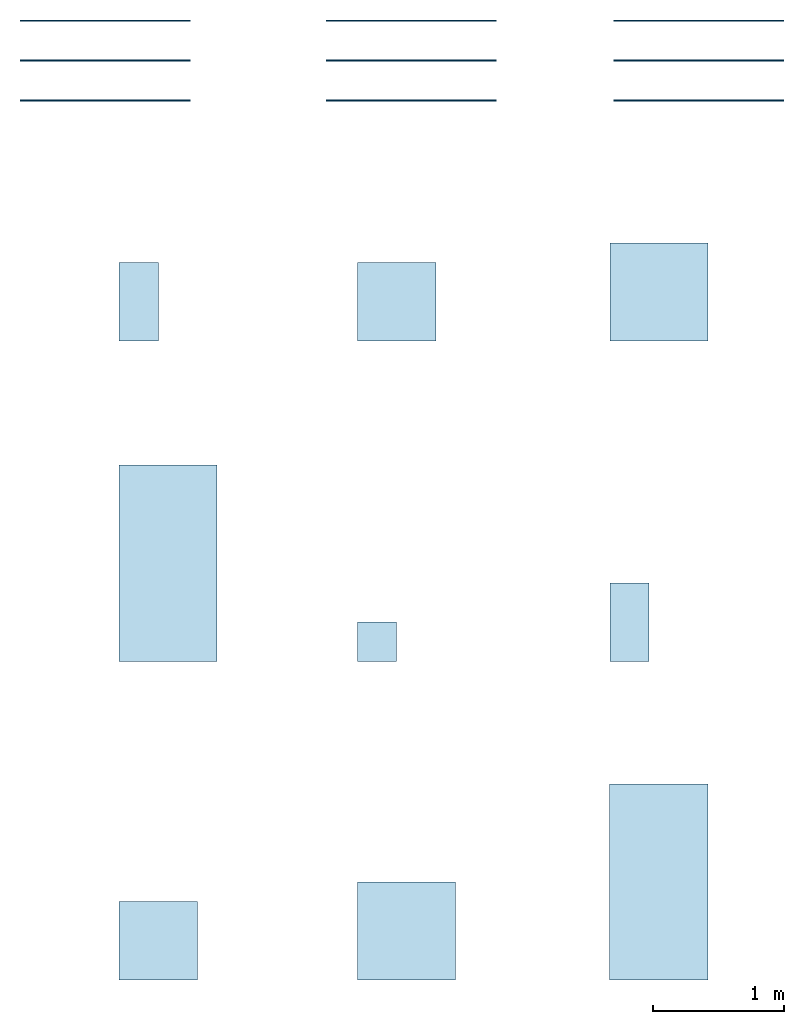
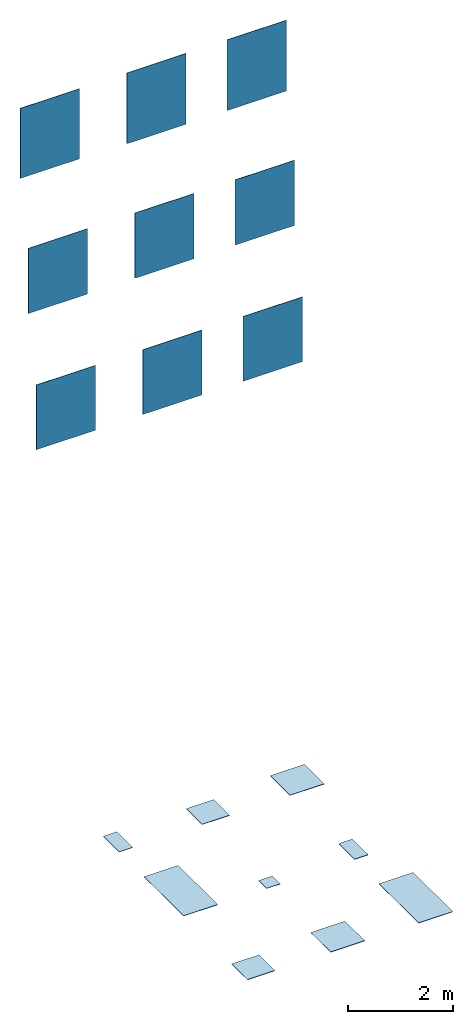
# One storey: 9 slabs, 9 walls.
"""IFC2X3 building model written with IfcOpenShell, lengths in millimetres."""

from ifc_helpers import new_model, entity, si_unit, converted_unit, derived_unit, direction, frame, frame_2d, origin, origin_2d_with_axis, place, context, subcontext, project, spatial, rectangle, extrude, material, layer, layer_set, layer_usage, type_object, element, save


model = new_model("IFC2X3")

# Units and contexts
model_context = context("Model", 3, precision=0.01, world=origin(), true_north=direction((6.12303176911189e-17, 1.0)))
body_context = subcontext(model_context, "Body", "Model", "MODEL_VIEW")
ifc_project = project(units=[si_unit("LENGTHUNIT", "METRE", prefix="MILLI"), si_unit("AREAUNIT", "SQUARE_METRE"), si_unit("VOLUMEUNIT", "CUBIC_METRE"), converted_unit("PLANEANGLEUNIT", "DEGREE", entity("IfcRatioMeasure", 0.0174532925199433), si_unit("PLANEANGLEUNIT", "RADIAN"), dimensions=[0, 0, 0, 0, 0, 0, 0]), si_unit("MASSUNIT", "GRAM", prefix="KILO"), derived_unit("MASSDENSITYUNIT", [(si_unit("MASSUNIT", "GRAM", prefix="KILO"), 1), (si_unit("LENGTHUNIT", "METRE"), -3)]), derived_unit("MOMENTOFINERTIAUNIT", [(si_unit("LENGTHUNIT", "METRE"), 4)]), si_unit("TIMEUNIT", "SECOND"), si_unit("FREQUENCYUNIT", "HERTZ"), si_unit("THERMODYNAMICTEMPERATUREUNIT", "DEGREE_CELSIUS"), derived_unit("THERMALTRANSMITTANCEUNIT", [(si_unit("MASSUNIT", "GRAM", prefix="KILO"), 1), (si_unit("THERMODYNAMICTEMPERATUREUNIT", "KELVIN"), -1), (si_unit("TIMEUNIT", "SECOND"), -3)]), derived_unit("VOLUMETRICFLOWRATEUNIT", [(si_unit("LENGTHUNIT", "METRE"), 3), (si_unit("TIMEUNIT", "SECOND"), -1)]), si_unit("ELECTRICCURRENTUNIT", "AMPERE"), si_unit("ELECTRICVOLTAGEUNIT", "VOLT"), si_unit("POWERUNIT", "WATT"), si_unit("FORCEUNIT", "NEWTON", prefix="KILO"), si_unit("ILLUMINANCEUNIT", "LUX"), si_unit("LUMINOUSFLUXUNIT", "LUMEN"), si_unit("LUMINOUSINTENSITYUNIT", "CANDELA"), derived_unit("USERDEFINED", [(si_unit("MASSUNIT", "GRAM", prefix="KILO"), -1), (si_unit("LENGTHUNIT", "METRE"), -2), (si_unit("TIMEUNIT", "SECOND"), 3), (si_unit("LUMINOUSFLUXUNIT", "LUMEN"), 1)]), derived_unit("LINEARVELOCITYUNIT", [(si_unit("LENGTHUNIT", "METRE"), 1), (si_unit("TIMEUNIT", "SECOND"), -1)]), si_unit("PRESSUREUNIT", "PASCAL"), derived_unit("USERDEFINED", [(si_unit("LENGTHUNIT", "METRE"), -2), (si_unit("MASSUNIT", "GRAM", prefix="KILO"), 1), (si_unit("TIMEUNIT", "SECOND"), -2)]), derived_unit("LINEARFORCEUNIT", [(si_unit("MASSUNIT", "GRAM", prefix="KILO"), 1), (si_unit("LENGTHUNIT", "METRE"), 1), (si_unit("TIMEUNIT", "SECOND"), -2), (si_unit("LENGTHUNIT", "METRE"), -1)]), derived_unit("PLANARFORCEUNIT", [(si_unit("MASSUNIT", "GRAM", prefix="KILO"), 1), (si_unit("LENGTHUNIT", "METRE"), 1), (si_unit("TIMEUNIT", "SECOND"), -2), (si_unit("LENGTHUNIT", "METRE"), -2)])], contexts=[model_context])

# Site, building, storey
site_placement = place(None, origin())
site = spatial("IfcSite", under=ifc_project, at=site_placement, Name="Default", CompositionType="ELEMENT")
building_placement = place(site_placement, origin())
building = spatial("IfcBuilding", under=site, at=building_placement, CompositionType="ELEMENT")
storey_placement = place(building_placement, origin())
storey = spatial("IfcBuildingStorey", under=building, at=storey_placement, Name="Level 0", CompositionType="ELEMENT", Elevation=0.0)

# Slabs
ifc_material_1 = material(Name="Prestigio Onyx-Grey-75x75 NZ82")
ifc_layer_1 = layer(ifc_material_1, 9.0)
ifc_material_2 = material(Name="<Unnamed>")
ifc_layer_2 = layer(ifc_material_2, 1.0)
ifc_layer_set_1 = layer_set([ifc_layer_1, ifc_layer_2], Name="Floor:Floor_Tiles_Refin-Prestigio_Onyx-Grey-75x75 NZ82")
ifc_layer_usage_1 = layer_usage(ifc_layer_set_1, "AXIS3", "POSITIVE", 0.0)
slab_type_1 = type_object("IfcSlabType", Name="Floor:Floor_Tiles_Refin-Prestigio_Onyx-Grey-75x75 NZ82", PredefinedType="FLOOR", material=ifc_layer_set_1)
slab_1_placement = place(storey_placement, origin())
element("IfcSlab", 1, at=slab_1_placement, inside=storey, type_object=slab_type_1, material=ifc_layer_usage_1, Name="Floor:Floor_Tiles_Refin-Prestigio_Onyx-Grey-75x75 NZ82", ObjectType="Floor:Floor_Tiles_Refin-Prestigio_Onyx-Grey-75x75 NZ82", PredefinedType="FLOOR", context=body_context, shape_type="SweptSolid", body=[
    extrude(rectangle(XDim=750.000000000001, YDim=750.000000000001, at=frame_2d((0.0, 1.08002495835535e-12), x_axis=(1.0, 0.0))), frame((10802.1861418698, 6064.46237428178, 0.0), z_axis=(0.0, 0.0, -1.0), x_axis=(0.0, 1.0, 0.0)), (0.0, 0.0, 1.0), 10.0),
])
ifc_material_3 = material(Name="Prestigio Onyx-Grey-30x60 NW02")
ifc_layer_3 = layer(ifc_material_3, 9.0)
ifc_layer_4 = layer(ifc_material_2, 1.0)
ifc_layer_set_2 = layer_set([ifc_layer_3, ifc_layer_4], Name="Floor:Floor_Tiles_Refin-Prestigio_Onyx-Grey-30x60 NW02")
ifc_layer_usage_2 = layer_usage(ifc_layer_set_2, "AXIS3", "POSITIVE", 0.0)
slab_type_2 = type_object("IfcSlabType", Name="Floor:Floor_Tiles_Refin-Prestigio_Onyx-Grey-30x60 NW02", PredefinedType="FLOOR", material=ifc_layer_set_2)
slab_2_placement = place(storey_placement, origin())
element("IfcSlab", 2, at=slab_2_placement, inside=storey, type_object=slab_type_2, material=ifc_layer_usage_2, Name="Floor:Floor_Tiles_Refin-Prestigio_Onyx-Grey-30x60 NW02", ObjectType="Floor:Floor_Tiles_Refin-Prestigio_Onyx-Grey-30x60 NW02", PredefinedType="FLOOR", context=body_context, shape_type="SweptSolid", body=[
    extrude(rectangle(XDim=600.0, YDim=300.0, at=frame_2d((0.0, -5.40012479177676e-13), x_axis=(1.0, 0.0))), frame((6824.37520617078, 5989.4623742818, 0.0), z_axis=(0.0, 0.0, -1.0), x_axis=(0.0, 1.0, 0.0)), (0.0, 0.0, 1.0), 10.0),
])
ifc_material_4 = material(Name="Prestigio Onyx-Grey-Soft-30x60 NW05")
ifc_layer_5 = layer(ifc_material_4, 9.0)
ifc_layer_6 = layer(ifc_material_2, 1.0)
ifc_layer_set_3 = layer_set([ifc_layer_5, ifc_layer_6], Name="Floor:Floor_Tiles_Refin-Prestigio_Onyx-Grey_Soft-30x60 NW05")
ifc_layer_usage_3 = layer_usage(ifc_layer_set_3, "AXIS3", "POSITIVE", 0.0)
slab_type_3 = type_object("IfcSlabType", Name="Floor:Floor_Tiles_Refin-Prestigio_Onyx-Grey_Soft-30x60 NW05", PredefinedType="FLOOR", material=ifc_layer_set_3)
slab_3_placement = place(storey_placement, origin())
element("IfcSlab", 3, at=slab_3_placement, inside=storey, type_object=slab_type_3, material=ifc_layer_usage_3, Name="Floor:Floor_Tiles_Refin-Prestigio_Onyx-Grey_Soft-30x60 NW05", ObjectType="Floor:Floor_Tiles_Refin-Prestigio_Onyx-Grey_Soft-30x60 NW05", PredefinedType="FLOOR", context=body_context, shape_type="SweptSolid", body=[
    extrude(rectangle(XDim=600.0, YDim=300.000000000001, at=origin_2d_with_axis()), frame((10577.1861418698, 3539.46237428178, 0.0), z_axis=(0.0, 0.0, -1.0), x_axis=(0.0, 1.0, 0.0)), (0.0, 0.0, 1.0), 10.0),
])
ifc_material_5 = material(Name="Prestigio Onyx-Grey-30x30 NZ92")
ifc_layer_7 = layer(ifc_material_5, 9.0)
ifc_layer_8 = layer(ifc_material_2, 1.0)
ifc_layer_set_4 = layer_set([ifc_layer_7, ifc_layer_8], Name="Floor:Floor_Tiles_Refin-Prestigio_Onyx-Grey-30x30 NZ92")
ifc_layer_usage_4 = layer_usage(ifc_layer_set_4, "AXIS3", "POSITIVE", 0.0)
slab_type_4 = type_object("IfcSlabType", Name="Floor:Floor_Tiles_Refin-Prestigio_Onyx-Grey-30x30 NZ92", PredefinedType="FLOOR", material=ifc_layer_set_4)
slab_4_placement = place(storey_placement, origin())
element("IfcSlab", 4, at=slab_4_placement, inside=storey, type_object=slab_type_4, material=ifc_layer_usage_4, Name="Floor:Floor_Tiles_Refin-Prestigio_Onyx-Grey-30x30 NZ92", ObjectType="Floor:Floor_Tiles_Refin-Prestigio_Onyx-Grey-30x30 NZ92", PredefinedType="FLOOR", context=body_context, shape_type="SweptSolid", body=[
    extrude(rectangle(XDim=300.0, YDim=300.0, at=frame_2d((5.40012479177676e-13, -5.40012479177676e-13), x_axis=(1.0, 0.0))), frame((8647.39240545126, 3389.4623742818, 0.0), z_axis=(0.0, 0.0, -1.0), x_axis=(0.0, 1.0, 0.0)), (0.0, 0.0, 1.0), 10.0),
])
ifc_material_6 = material(Name="Prestigio Onyx-Grey-75x150 NV70")
ifc_layer_9 = layer(ifc_material_6, 9.0)
ifc_layer_10 = layer(ifc_material_2, 1.0)
ifc_layer_set_5 = layer_set([ifc_layer_9, ifc_layer_10], Name="Floor:Floor_Tiles_Refin-Prestigio_Onyx-Grey-75x150 NV70")
ifc_layer_usage_5 = layer_usage(ifc_layer_set_5, "AXIS3", "POSITIVE", 0.0)
slab_type_5 = type_object("IfcSlabType", Name="Floor:Floor_Tiles_Refin-Prestigio_Onyx-Grey-75x150 NV70", PredefinedType="FLOOR", material=ifc_layer_set_5)
slab_5_placement = place(storey_placement, origin())
element("IfcSlab", 5, at=slab_5_placement, inside=storey, type_object=slab_type_5, material=ifc_layer_usage_5, Name="Floor:Floor_Tiles_Refin-Prestigio_Onyx-Grey-75x150 NV70", ObjectType="Floor:Floor_Tiles_Refin-Prestigio_Onyx-Grey-75x150 NV70", PredefinedType="FLOOR", context=body_context, shape_type="SweptSolid", body=[
    extrude(rectangle(XDim=1500.0, YDim=750.000000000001, at=frame_2d((0.0, 1.08002495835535e-12), x_axis=(1.0, 0.0))), frame((7049.37520617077, 3989.4623742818, 0.0), z_axis=(0.0, 0.0, -1.0), x_axis=(0.0, 1.0, 0.0)), (0.0, 0.0, 1.0), 10.0),
])
ifc_material_7 = material(Name="Prestigio Onyx-Grey-Soft-60x60 NZ99")
ifc_layer_11 = layer(ifc_material_7, 9.0)
ifc_layer_12 = layer(ifc_material_2, 1.0)
ifc_layer_set_6 = layer_set([ifc_layer_11, ifc_layer_12], Name="Floor:Floor_Tiles_Refin-Prestigio_Onyx-Grey_Soft-60x60 NZ99")
ifc_layer_usage_6 = layer_usage(ifc_layer_set_6, "AXIS3", "POSITIVE", 0.0)
slab_type_6 = type_object("IfcSlabType", Name="Floor:Floor_Tiles_Refin-Prestigio_Onyx-Grey_Soft-60x60 NZ99", PredefinedType="FLOOR", material=ifc_layer_set_6)
slab_6_placement = place(storey_placement, origin())
element("IfcSlab", 6, at=slab_6_placement, inside=storey, type_object=slab_type_6, material=ifc_layer_usage_6, Name="Floor:Floor_Tiles_Refin-Prestigio_Onyx-Grey_Soft-60x60 NZ99", ObjectType="Floor:Floor_Tiles_Refin-Prestigio_Onyx-Grey_Soft-60x60 NZ99", PredefinedType="FLOOR", context=body_context, shape_type="SweptSolid", body=[
    extrude(rectangle(XDim=600.0, YDim=600.0, at=frame_2d((0.0, 1.08002495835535e-12), x_axis=(1.0, 0.0))), frame((6972.60093306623, 1103.43672349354, 0.0), z_axis=(0.0, 0.0, -1.0), x_axis=(0.0, 1.0, 0.0)), (0.0, 0.0, 1.0), 10.0),
])
ifc_material_8 = material(Name="Prestigio Onyx-Grey-60x60 NZ96")
ifc_layer_13 = layer(ifc_material_8, 9.0)
ifc_layer_14 = layer(ifc_material_2, 1.0)
ifc_layer_set_7 = layer_set([ifc_layer_13, ifc_layer_14], Name="Floor:Floor_Tiles_Refin-Prestigio_Onyx-Grey-60x60 NZ96")
ifc_layer_usage_7 = layer_usage(ifc_layer_set_7, "AXIS3", "POSITIVE", 0.0)
slab_type_7 = type_object("IfcSlabType", Name="Floor:Floor_Tiles_Refin-Prestigio_Onyx-Grey-60x60 NZ96", PredefinedType="FLOOR", material=ifc_layer_set_7)
slab_7_placement = place(storey_placement, origin())
element("IfcSlab", 7, at=slab_7_placement, inside=storey, type_object=slab_type_7, material=ifc_layer_usage_7, Name="Floor:Floor_Tiles_Refin-Prestigio_Onyx-Grey-60x60 NZ96", ObjectType="Floor:Floor_Tiles_Refin-Prestigio_Onyx-Grey-60x60 NZ96", PredefinedType="FLOOR", context=body_context, shape_type="SweptSolid", body=[
    extrude(rectangle(XDim=600.0, YDim=600.0, at=origin_2d_with_axis()), frame((8797.39240545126, 5988.41920639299, 0.0), z_axis=(0.0, 0.0, -1.0), x_axis=(0.0, 1.0, 0.0)), (0.0, 0.0, 1.0), 10.0),
])
ifc_material_9 = material(Name="Prestigio Onyx-Grey-Soft-75x75 NZ85")
ifc_layer_15 = layer(ifc_material_9, 9.0)
ifc_layer_16 = layer(ifc_material_2, 1.0)
ifc_layer_set_8 = layer_set([ifc_layer_15, ifc_layer_16], Name="Floor:Floor_Tiles_Refin-Prestigio_Onyx-Grey_Soft-75x75 NZ85")
ifc_layer_usage_8 = layer_usage(ifc_layer_set_8, "AXIS3", "POSITIVE", 0.0)
slab_type_8 = type_object("IfcSlabType", Name="Floor:Floor_Tiles_Refin-Prestigio_Onyx-Grey_Soft-75x75 NZ85", PredefinedType="FLOOR", material=ifc_layer_set_8)
slab_8_placement = place(storey_placement, origin())
element("IfcSlab", 8, at=slab_8_placement, inside=storey, type_object=slab_type_8, material=ifc_layer_usage_8, Name="Floor:Floor_Tiles_Refin-Prestigio_Onyx-Grey_Soft-75x75 NZ85", ObjectType="Floor:Floor_Tiles_Refin-Prestigio_Onyx-Grey_Soft-75x75 NZ85", PredefinedType="FLOOR", context=body_context, shape_type="SweptSolid", body=[
    extrude(rectangle(XDim=750.0, YDim=750.000000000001, at=frame_2d((0.0, -1.08002495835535e-12), x_axis=(1.0, 0.0))), frame((8870.61813234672, 1178.43672349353, 0.0), z_axis=(0.0, 0.0, -1.0), x_axis=(0.0, 1.0, 0.0)), (0.0, 0.0, 1.0), 10.0),
])
ifc_material_10 = material(Name="Prestigio Onyx-Grey-Soft-75x150 NZ79")
ifc_layer_17 = layer(ifc_material_10, 9.0)
ifc_layer_18 = layer(ifc_material_2, 1.0)
ifc_layer_set_9 = layer_set([ifc_layer_17, ifc_layer_18], Name="Floor:Floor_Tiles_Refin-Prestigio_Onyx-Grey_Soft-75x150 NZ79")
ifc_layer_usage_9 = layer_usage(ifc_layer_set_9, "AXIS3", "POSITIVE", 0.0)
slab_type_9 = type_object("IfcSlabType", Name="Floor:Floor_Tiles_Refin-Prestigio_Onyx-Grey_Soft-75x150 NZ79", PredefinedType="FLOOR", material=ifc_layer_set_9)
slab_9_placement = place(storey_placement, origin())
element("IfcSlab", 9, at=slab_9_placement, inside=storey, type_object=slab_type_9, material=ifc_layer_usage_9, Name="Floor:Floor_Tiles_Refin-Prestigio_Onyx-Grey_Soft-75x150 NZ79", ObjectType="Floor:Floor_Tiles_Refin-Prestigio_Onyx-Grey_Soft-75x150 NZ79", PredefinedType="FLOOR", context=body_context, shape_type="SweptSolid", body=[
    extrude(rectangle(XDim=1500.0, YDim=750.000000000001, at=frame_2d((0.0, 1.08002495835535e-12), x_axis=(1.0, 0.0))), frame((10800.4118687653, 1553.43672349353, 0.0), z_axis=(0.0, 0.0, -1.0), x_axis=(0.0, 1.0, 0.0)), (0.0, 0.0, 1.0), 10.0),
])

# Walls
ifc_layer_19 = layer(ifc_material_2, 1.0)
ifc_layer_20 = layer(ifc_material_8, 9.0)
ifc_layer_set_10 = layer_set([ifc_layer_19, ifc_layer_20], Name="Basic Wall:Wall_Tiles_Refin-Prestigio_Onyx-Grey-60x60 NZ96")
ifc_layer_usage_10 = layer_usage(ifc_layer_set_10, "AXIS2", "NEGATIVE", 5.0)
wall_type_1 = type_object("IfcWallType", Name="Basic Wall:Wall_Tiles_Refin-Prestigio_Onyx-Grey-60x60 NZ96", PredefinedType="STANDARD", material=ifc_layer_set_10)
wall_1_placement = place(storey_placement, frame((8257.37520617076, 8137.38386313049, 14387.6770443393)))
element("IfcWallStandardCase", 10, at=wall_1_placement, inside=storey, type_object=wall_type_1, material=ifc_layer_usage_10, Name="Basic Wall:Wall_Tiles_Refin-Prestigio_Onyx-Grey-60x60 NZ96", ObjectType="Basic Wall:Wall_Tiles_Refin-Prestigio_Onyx-Grey-60x60 NZ96", context=body_context, shape_type="SweptSolid", body=[
    extrude(rectangle(XDim=1300.0, YDim=9.99999999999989, at=frame_2d((650.0, 7.63833440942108e-14), x_axis=(-1.0, 0.0))), origin(), (0.0, 0.0, 1.0), 1641.74173522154),
])
ifc_layer_21 = layer(ifc_material_2, 1.0)
ifc_layer_22 = layer(ifc_material_1, 9.0)
ifc_layer_set_11 = layer_set([ifc_layer_21, ifc_layer_22], Name="Basic Wall:Wall_Tiles_Refin-Prestigio_Onyx-Grey-75x75 NZ82")
ifc_layer_usage_11 = layer_usage(ifc_layer_set_11, "AXIS2", "NEGATIVE", 5.0)
wall_type_2 = type_object("IfcWallType", Name="Basic Wall:Wall_Tiles_Refin-Prestigio_Onyx-Grey-75x75 NZ82", PredefinedType="STANDARD", material=ifc_layer_set_11)
wall_2_placement = place(storey_placement, frame((10457.3752061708, 8137.38386313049, 14387.6770443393)))
element("IfcWallStandardCase", 11, at=wall_2_placement, inside=storey, type_object=wall_type_2, material=ifc_layer_usage_11, Name="Basic Wall:Wall_Tiles_Refin-Prestigio_Onyx-Grey-75x75 NZ82", ObjectType="Basic Wall:Wall_Tiles_Refin-Prestigio_Onyx-Grey-75x75 NZ82", context=body_context, shape_type="SweptSolid", body=[
    extrude(rectangle(XDim=1300.0, YDim=9.99999999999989, at=frame_2d((650.0, 7.63833440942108e-14), x_axis=(-1.0, 0.0))), origin(), (0.0, 0.0, 1.0), 1641.74173522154),
])
ifc_layer_23 = layer(ifc_material_2, 1.0)
ifc_layer_24 = layer(ifc_material_3, 9.0)
ifc_layer_set_12 = layer_set([ifc_layer_23, ifc_layer_24], Name="Basic Wall:Wall_Tiles_Refin-Prestigio_Onyx-Grey-30x60 NW02")
ifc_layer_usage_12 = layer_usage(ifc_layer_set_12, "AXIS2", "NEGATIVE", 5.0)
wall_type_3 = type_object("IfcWallType", Name="Basic Wall:Wall_Tiles_Refin-Prestigio_Onyx-Grey-30x60 NW02", PredefinedType="STANDARD", material=ifc_layer_set_12)
wall_3_placement = place(storey_placement, frame((5917.37520617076, 8137.38386313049, 14403.726734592)))
element("IfcWallStandardCase", 12, at=wall_3_placement, inside=storey, type_object=wall_type_3, material=ifc_layer_usage_12, Name="Basic Wall:Wall_Tiles_Refin-Prestigio_Onyx-Grey-30x60 NW02", ObjectType="Basic Wall:Wall_Tiles_Refin-Prestigio_Onyx-Grey-30x60 NW02", context=body_context, shape_type="SweptSolid", body=[
    extrude(rectangle(XDim=1300.0, YDim=9.99999999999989, at=frame_2d((650.0, 7.63833440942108e-14), x_axis=(-1.0, 0.0))), origin(), (0.0, 0.0, 1.0), 1625.69204496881),
])
ifc_layer_25 = layer(ifc_material_2, 1.0)
ifc_layer_26 = layer(ifc_material_6, 9.0)
ifc_layer_set_13 = layer_set([ifc_layer_25, ifc_layer_26], Name="Basic Wall:Wall_Tiles_Refin-Prestigio_Onyx-Grey-75x150 NV70")
ifc_layer_usage_13 = layer_usage(ifc_layer_set_13, "AXIS2", "NEGATIVE", 5.0)
wall_type_4 = type_object("IfcWallType", Name="Basic Wall:Wall_Tiles_Refin-Prestigio_Onyx-Grey-75x150 NV70", PredefinedType="STANDARD", material=ifc_layer_set_13)
wall_4_placement = place(storey_placement, frame((5917.37520617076, 7832.38386313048, 11452.5436262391)))
element("IfcWallStandardCase", 13, at=wall_4_placement, inside=storey, type_object=wall_type_4, material=ifc_layer_usage_13, Name="Basic Wall:Wall_Tiles_Refin-Prestigio_Onyx-Grey-75x150 NV70", ObjectType="Basic Wall:Wall_Tiles_Refin-Prestigio_Onyx-Grey-75x150 NV70", context=body_context, shape_type="SweptSolid", body=[
    extrude(rectangle(XDim=1300.0, YDim=9.99999999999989, at=frame_2d((650.0, 0.0), x_axis=(-1.0, 0.0))), origin(), (0.0, 0.0, 1.0), 1513.19855655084),
])
ifc_layer_27 = layer(ifc_material_2, 1.0)
ifc_layer_28 = layer(ifc_material_5, 9.0)
ifc_layer_set_14 = layer_set([ifc_layer_27, ifc_layer_28], Name="Basic Wall:Wall_Tiles_Refin-Prestigio_Onyx-Grey-30x30 NZ92")
ifc_layer_usage_14 = layer_usage(ifc_layer_set_14, "AXIS2", "NEGATIVE", 5.0)
wall_type_5 = type_object("IfcWallType", Name="Basic Wall:Wall_Tiles_Refin-Prestigio_Onyx-Grey-30x30 NZ92", PredefinedType="STANDARD", material=ifc_layer_set_14)
wall_5_placement = place(storey_placement, frame((8257.37520617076, 7832.38386313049, 11452.5436262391)))
element("IfcWallStandardCase", 14, at=wall_5_placement, inside=storey, type_object=wall_type_5, material=ifc_layer_usage_14, Name="Basic Wall:Wall_Tiles_Refin-Prestigio_Onyx-Grey-30x30 NZ92", ObjectType="Basic Wall:Wall_Tiles_Refin-Prestigio_Onyx-Grey-30x30 NZ92", context=body_context, shape_type="SweptSolid", body=[
    extrude(rectangle(XDim=1300.0, YDim=9.99999999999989, at=frame_2d((650.0, 0.0), x_axis=(-1.0, 0.0))), origin(), (0.0, 0.0, 1.0), 1513.19855655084),
])
ifc_layer_29 = layer(ifc_material_2, 1.0)
ifc_layer_30 = layer(ifc_material_4, 9.0)
ifc_layer_set_15 = layer_set([ifc_layer_29, ifc_layer_30], Name="Basic Wall:Wall_Tiles_Refin-Prestigio_Onyx-Grey_Soft_30x60 NW05")
ifc_layer_usage_15 = layer_usage(ifc_layer_set_15, "AXIS2", "NEGATIVE", 5.0)
wall_type_6 = type_object("IfcWallType", Name="Basic Wall:Wall_Tiles_Refin-Prestigio_Onyx-Grey_Soft_30x60 NW05", PredefinedType="STANDARD", material=ifc_layer_set_15)
wall_6_placement = place(storey_placement, frame((10457.3752061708, 7832.38386313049, 11452.5436262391)))
element("IfcWallStandardCase", 15, at=wall_6_placement, inside=storey, type_object=wall_type_6, material=ifc_layer_usage_15, Name="Basic Wall:Wall_Tiles_Refin-Prestigio_Onyx-Grey_Soft_30x60 NW05", ObjectType="Basic Wall:Wall_Tiles_Refin-Prestigio_Onyx-Grey_Soft_30x60 NW05", context=body_context, shape_type="SweptSolid", body=[
    extrude(rectangle(XDim=1300.0, YDim=9.99999999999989, at=frame_2d((650.000000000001, 0.0), x_axis=(-1.0, 0.0))), origin(), (0.0, 0.0, 1.0), 1513.19855655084),
])
ifc_layer_31 = layer(ifc_material_2, 1.0)
ifc_layer_32 = layer(ifc_material_7, 9.0)
ifc_layer_set_16 = layer_set([ifc_layer_31, ifc_layer_32], Name="Basic Wall:Wall_Tiles_Refin-Prestigio_Onyx-Grey_Soft_60x60 NZ99")
ifc_layer_usage_16 = layer_usage(ifc_layer_set_16, "AXIS2", "NEGATIVE", 5.0)
wall_type_7 = type_object("IfcWallType", Name="Basic Wall:Wall_Tiles_Refin-Prestigio_Onyx-Grey_Soft_60x60 NZ99", PredefinedType="STANDARD", material=ifc_layer_set_16)
wall_7_placement = place(storey_placement, frame((5917.37520617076, 7527.38386313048, 8479.10272143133)))
element("IfcWallStandardCase", 16, at=wall_7_placement, inside=storey, type_object=wall_type_7, material=ifc_layer_usage_16, Name="Basic Wall:Wall_Tiles_Refin-Prestigio_Onyx-Grey_Soft_60x60 NZ99", ObjectType="Basic Wall:Wall_Tiles_Refin-Prestigio_Onyx-Grey_Soft_60x60 NZ99", context=body_context, shape_type="SweptSolid", body=[
    extrude(rectangle(XDim=1300.0, YDim=9.99999999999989, at=frame_2d((650.0, 0.0), x_axis=(-1.0, 0.0))), origin(), (0.0, 0.0, 1.0), 1502.57401590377),
])
ifc_layer_33 = layer(ifc_material_2, 1.0)
ifc_layer_34 = layer(ifc_material_9, 9.0)
ifc_layer_set_17 = layer_set([ifc_layer_33, ifc_layer_34], Name="Basic Wall:Wall_Tiles_Refin-Prestigio_Onyx-Grey_Soft_75x75 NZ85")
ifc_layer_usage_17 = layer_usage(ifc_layer_set_17, "AXIS2", "NEGATIVE", 5.0)
wall_type_8 = type_object("IfcWallType", Name="Basic Wall:Wall_Tiles_Refin-Prestigio_Onyx-Grey_Soft_75x75 NZ85", PredefinedType="STANDARD", material=ifc_layer_set_17)
wall_8_placement = place(storey_placement, frame((8257.37520617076, 7527.38386313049, 8479.10272143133)))
element("IfcWallStandardCase", 17, at=wall_8_placement, inside=storey, type_object=wall_type_8, material=ifc_layer_usage_17, Name="Basic Wall:Wall_Tiles_Refin-Prestigio_Onyx-Grey_Soft_75x75 NZ85", ObjectType="Basic Wall:Wall_Tiles_Refin-Prestigio_Onyx-Grey_Soft_75x75 NZ85", context=body_context, shape_type="SweptSolid", body=[
    extrude(rectangle(XDim=1300.0, YDim=9.99999999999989, at=frame_2d((650.0, 0.0), x_axis=(-1.0, 0.0))), origin(), (0.0, 0.0, 1.0), 1502.57401590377),
])
ifc_layer_35 = layer(ifc_material_2, 1.0)
ifc_layer_36 = layer(ifc_material_10, 9.0)
ifc_layer_set_18 = layer_set([ifc_layer_35, ifc_layer_36], Name="Basic Wall:Wall_Tiles_Refin-Prestigio_Onyx-Grey_Soft_75x150 NZ79")
ifc_layer_usage_18 = layer_usage(ifc_layer_set_18, "AXIS2", "NEGATIVE", 5.0)
wall_type_9 = type_object("IfcWallType", Name="Basic Wall:Wall_Tiles_Refin-Prestigio_Onyx-Grey_Soft_75x150 NZ79", PredefinedType="STANDARD", material=ifc_layer_set_18)
wall_9_placement = place(storey_placement, frame((10457.3752061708, 7527.38386313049, 8479.10272143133)))
element("IfcWallStandardCase", 18, at=wall_9_placement, inside=storey, type_object=wall_type_9, material=ifc_layer_usage_18, Name="Basic Wall:Wall_Tiles_Refin-Prestigio_Onyx-Grey_Soft_75x150 NZ79", ObjectType="Basic Wall:Wall_Tiles_Refin-Prestigio_Onyx-Grey_Soft_75x150 NZ79", context=body_context, shape_type="SweptSolid", body=[
    extrude(rectangle(XDim=1300.0, YDim=9.99999999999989, at=frame_2d((650.000000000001, 0.0), x_axis=(-1.0, 0.0))), origin(), (0.0, 0.0, 1.0), 1502.57401590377),
])

save(model, "model.ifc")
